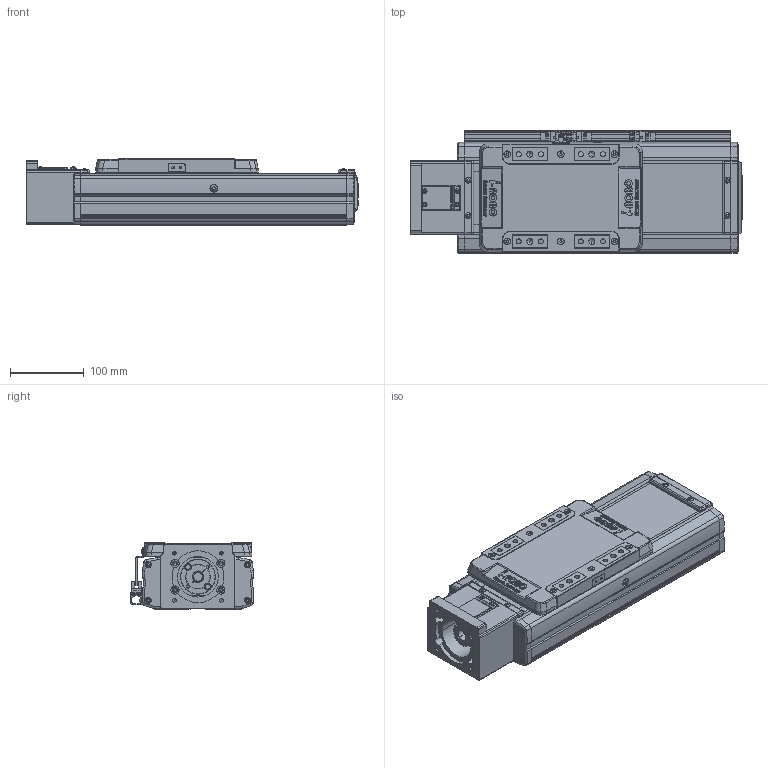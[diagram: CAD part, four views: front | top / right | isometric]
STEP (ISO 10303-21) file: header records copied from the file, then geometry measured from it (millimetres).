
FILE_DESCRIPTION(('STEP AP214'),'1');
FILE_NAME('Z:/Web/3D/SAN150/2013.04 (STP.)/SAN150ㅁㅁ-100S+3SL.stp','2013-05-08T02:39:56',(' '),(' '),'Spatial InterOp 3D',' ',' ');
FILE_SCHEMA(('automotive_design'));
Length unit declared in the file: millimetre
Products named in the file (91): SLBL-SAN150; SLCV-SAN150; FHCS M4.0 x 8.0; BHCS M4.0 x 10.0; SFX-SAN150; RRCV-SAN150; FRBL-SAN150; Spacer; RN15; FRCV-SAN150; Screw 20; BASE-SAN150-000L ; SUS COVER; 스크루 : Round - M5.0 x 6.0; BHCS M3.0 x 6.0; SSFX-SAN65; CPLCV-SAN65; SDWA47C(2); SDWA47C(3-1); SDWA47C(3); SDWA47C(1); SDWA47C(4); SDWA47C(5); MTHZ-SAN150-80; M3.0 x 6.0; SRL-16x17-360L; SGD-SAN150; EE-SX674; SBK-SX674-352; 스크루 : Round - M3.0 x 6.0
Bounding box: 449 x 166 x 90 mm (x, y, z)
Volume: 3197974.1 mm3; surface area: 674592.1 mm2
Topology: 91 solids, 91 shells, 3222 faces, 8385 edges, 5443 vertices
Faces by surface type: plane 1535, cylinder 1209, cone 361, sphere 72, bspline 29, torus 16
Entity records: 129486 total; most frequent: CARTESIAN_POINT 20343, DIRECTION 18123, ORIENTED_EDGE 16578, EDGE_CURVE 8289, AXIS2_PLACEMENT_3D 6682, VERTEX_POINT 5443, LINE 4759, VECTOR 4759
